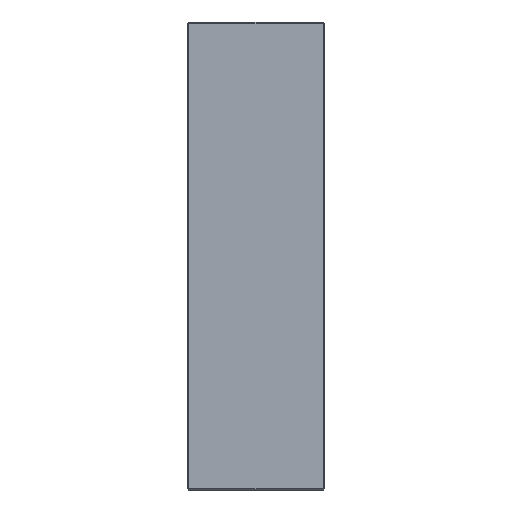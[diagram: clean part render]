
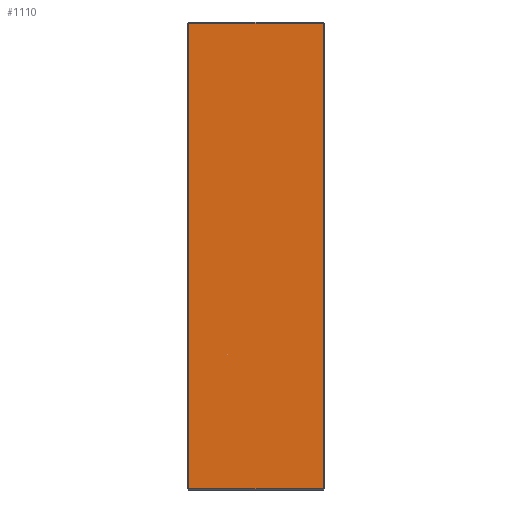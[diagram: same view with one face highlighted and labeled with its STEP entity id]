
A CAD part, left-side view. The second image highlights one B-rep face of the part: STEP entity #1110.
In plain terms, the highlighted planar face has unit normal (-1, 0, 0).
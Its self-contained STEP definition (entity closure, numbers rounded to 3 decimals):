
#127 = EDGE_LOOP ( 'NONE', ( #849, #1964, #2532, #1539 ) ) ;
#294 = VECTOR ( 'NONE', #2196, 1000. ) ;
#361 = PLANE ( 'NONE',  #2315 ) ;
#424 = EDGE_CURVE ( 'NONE', #1732, #2647, #1958, .T. ) ;
#486 = LINE ( 'NONE', #1002, #1526 ) ;
#571 = CARTESIAN_POINT ( 'NONE',  ( -198., 116., 198. ) ) ;
#835 = DIRECTION ( 'NONE',  ( 0., 0., 1. ) ) ;
#849 = ORIENTED_EDGE ( 'NONE', *, *, #2001, .T. ) ;
#972 = EDGE_CURVE ( 'NONE', #2647, #1439, #486, .T. ) ;
#1002 = CARTESIAN_POINT ( 'NONE',  ( -198., 1., 198. ) ) ;
#1048 = VECTOR ( 'NONE', #1339, 1000. ) ;
#1110 = ADVANCED_FACE ( 'NONE', ( #2213 ), #361, .F. ) ;
#1339 = DIRECTION ( 'NONE',  ( 0., 0., -1. ) ) ;
#1352 = CARTESIAN_POINT ( 'NONE',  ( -198., 115., 198. ) ) ;
#1401 = DIRECTION ( 'NONE',  ( 1., 0., 0. ) ) ;
#1439 = VERTEX_POINT ( 'NONE', #2202 ) ;
#1526 = VECTOR ( 'NONE', #835, 1000. ) ;
#1539 = ORIENTED_EDGE ( 'NONE', *, *, #972, .T. ) ;
#1551 = CARTESIAN_POINT ( 'NONE',  ( -198., 115., 197. ) ) ;
#1569 = CARTESIAN_POINT ( 'NONE',  ( -198., 116., -197. ) ) ;
#1577 = DIRECTION ( 'NONE',  ( 0., 1., 0. ) ) ;
#1605 = CARTESIAN_POINT ( 'NONE',  ( -198., 116., 197. ) ) ;
#1645 = CARTESIAN_POINT ( 'NONE',  ( -198., 1., -197. ) ) ;
#1672 = LINE ( 'NONE', #1605, #2141 ) ;
#1732 = VERTEX_POINT ( 'NONE', #2049 ) ;
#1748 = DIRECTION ( 'NONE',  ( 0., 0., -1. ) ) ;
#1958 = LINE ( 'NONE', #1569, #294 ) ;
#1964 = ORIENTED_EDGE ( 'NONE', *, *, #2257, .T. ) ;
#2001 = EDGE_CURVE ( 'NONE', #1439, #2234, #1672, .T. ) ;
#2049 = CARTESIAN_POINT ( 'NONE',  ( -198., 115., -197. ) ) ;
#2141 = VECTOR ( 'NONE', #1577, 1000. ) ;
#2146 = LINE ( 'NONE', #1352, #1048 ) ;
#2196 = DIRECTION ( 'NONE',  ( 0., -1., 0. ) ) ;
#2202 = CARTESIAN_POINT ( 'NONE',  ( -198., 1., 197. ) ) ;
#2213 = FACE_OUTER_BOUND ( 'NONE', #127, .T. ) ;
#2234 = VERTEX_POINT ( 'NONE', #1551 ) ;
#2257 = EDGE_CURVE ( 'NONE', #2234, #1732, #2146, .T. ) ;
#2315 = AXIS2_PLACEMENT_3D ( 'NONE', #571, #1401, #1748 ) ;
#2532 = ORIENTED_EDGE ( 'NONE', *, *, #424, .T. ) ;
#2647 = VERTEX_POINT ( 'NONE', #1645 ) ;
